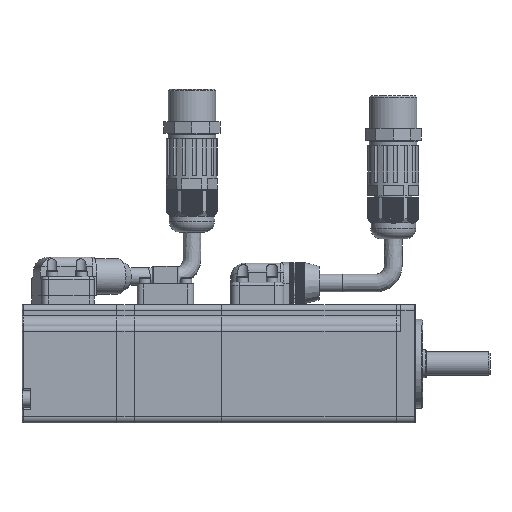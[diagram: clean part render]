
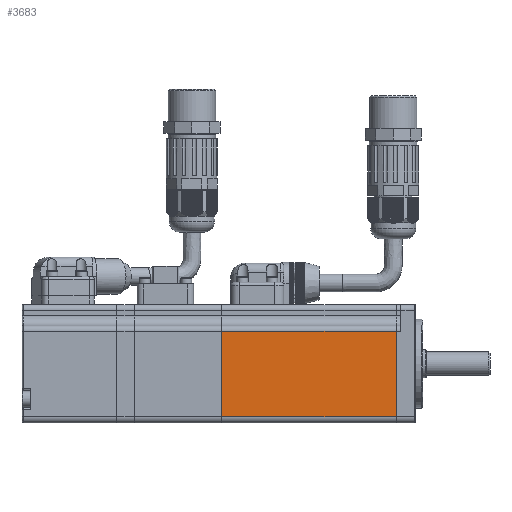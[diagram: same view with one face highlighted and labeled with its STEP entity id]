
A CAD part, left-side view. The second image highlights one B-rep face of the part: STEP entity #3683.
In plain terms, the highlighted planar face has unit normal (-1, 0, 0).
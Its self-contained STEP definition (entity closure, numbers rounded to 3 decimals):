
#3683=ADVANCED_FACE('',(#7729),#5815,.T.);
#5815=PLANE('',#45267);
#7729=FACE_OUTER_BOUND('',#10114,.T.);
#10114=EDGE_LOOP('',(#23047,#23048,#23049,#23050));
#13336=LINE('',#63571,#16863);
#13337=LINE('',#63574,#16864);
#13338=LINE('',#63576,#16865);
#13339=LINE('',#63578,#16866);
#16863=VECTOR('',#51792,1.);
#16864=VECTOR('',#51793,1.);
#16865=VECTOR('',#51794,1.);
#16866=VECTOR('',#51795,1.);
#23047=ORIENTED_EDGE('',*,*,#37865,.F.);
#23048=ORIENTED_EDGE('',*,*,#37866,.F.);
#23049=ORIENTED_EDGE('',*,*,#37867,.T.);
#23050=ORIENTED_EDGE('',*,*,#37868,.T.);
#33110=VERTEX_POINT('',#63572);
#33111=VERTEX_POINT('',#63573);
#33112=VERTEX_POINT('',#63575);
#33113=VERTEX_POINT('',#63577);
#37865=EDGE_CURVE('',#33110,#33111,#13336,.T.);
#37866=EDGE_CURVE('',#33112,#33110,#13337,.T.);
#37867=EDGE_CURVE('',#33112,#33113,#13338,.T.);
#37868=EDGE_CURVE('',#33113,#33111,#13339,.T.);
#45267=AXIS2_PLACEMENT_3D('',#63579,#51796,#51797);
#51792=DIRECTION('',(0.,0.,1.));
#51793=DIRECTION('',(0.,1.,0.));
#51794=DIRECTION('',(0.,0.,1.));
#51795=DIRECTION('',(0.,1.,0.));
#51796=DIRECTION('',(-1.,0.,0.));
#51797=DIRECTION('',(0.,-1.,0.));
#63571=CARTESIAN_POINT('',(148.12,170.9,-34.013));
#63572=CARTESIAN_POINT('',(148.12,170.9,-35.75));
#63573=CARTESIAN_POINT('',(148.12,170.9,-6.75));
#63574=CARTESIAN_POINT('',(148.12,111.9,-35.75));
#63575=CARTESIAN_POINT('',(148.12,111.9,-35.75));
#63576=CARTESIAN_POINT('',(148.12,111.9,-35.75));
#63577=CARTESIAN_POINT('',(148.12,111.9,-6.75));
#63578=CARTESIAN_POINT('',(148.12,111.9,-6.75));
#63579=CARTESIAN_POINT('',(148.12,111.9,-35.75));
